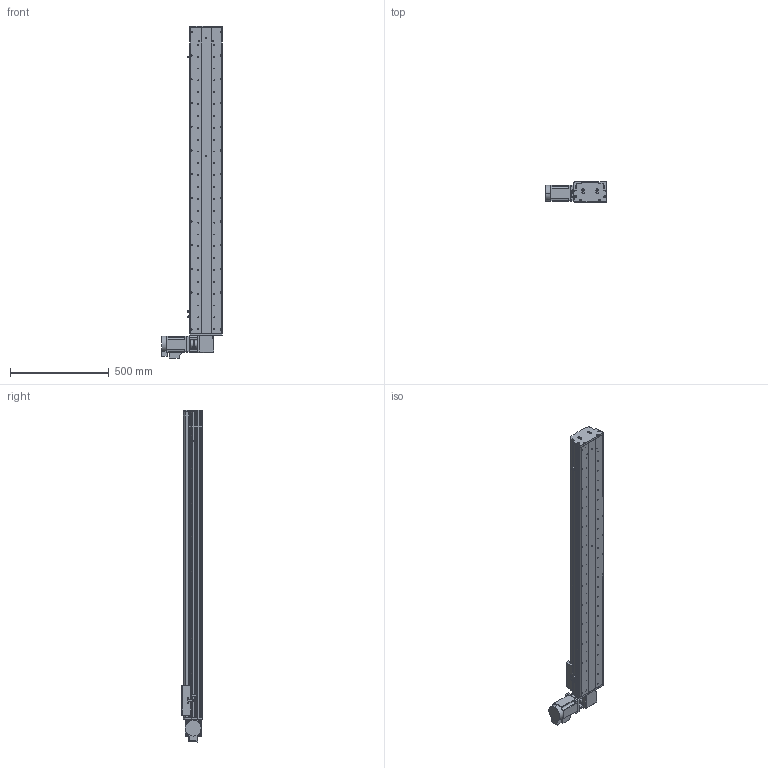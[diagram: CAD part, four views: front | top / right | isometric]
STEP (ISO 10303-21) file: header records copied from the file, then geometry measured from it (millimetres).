
FILE_DESCRIPTION (( 'STEP AP214' ), '1' );
FILE_NAME ('KSD165B-S1300-MRT-CM.STEP', '2017-10-17T01:41:00', ( '微软用户' ), ( '微软中国' ), 'SwSTEP 2.0', 'SolidWorks 2014', '' );
FILE_SCHEMA (( 'AUTOMOTIVE_DESIGN' ));
Length unit declared in the file: millimetre
Products named in the file (16): 165宽马达安装板同步带左-改; KSD165模组-同步带防尘盖1-1300行程; KSD165模组同步带底板-1300行程; 拸秶雄ん750W侜督萇儂; 165宽安装板同步带带电机座750W; C39ㄜ1419WP; U倰嫖萇假蚾璃; U倰嫖萇EEㄜSX672; 覜茼え68遵圉猾敕; KSD165模组-同步带-防撞垫2; KSD165模组同步带-防撞垫1; KSD165耀郪-ヶ傷啣1-肮祭湍; KSD165模组-后端板1-同步带; 130宽马达安装板1-带电机座750W（1）; KSD165模组-同步带滑动座-最新版; KSD165B-S1300-MRT-CM
Assembly tree (19 placements, depth 2):
  KSD165B-S1300-MRT-CM
    KSD165模组-同步带滑动座-最新版
    130宽马达安装板1-带电机座750W（1）
    KSD165模组-后端板1-同步带
    KSD165耀郪-ヶ傷啣1-肮祭湍
    KSD165模组同步带-防撞垫1
    KSD165模组-同步带-防撞垫2
    覜茼え68遵圉猾敕
    U倰嫖萇EEㄜSX672  x3
    U倰嫖萇假蚾璃  x3
    C39ㄜ1419WP
    165宽安装板同步带带电机座750W
    拸秶雄ん750W侜督萇儂
    KSD165模组同步带底板-1300行程
    KSD165模组-同步带防尘盖1-1300行程
    165宽马达安装板同步带左-改
Bounding box: 307.5 x 104 x 1681.06 mm (x, y, z)
Volume: 9241654.2 mm3; surface area: 2099780.4 mm2
Topology: 20 solids, 21 shells, 1558 faces, 4344 edges, 2817 vertices
Faces by surface type: cylinder 877, plane 587, cone 94
Entity records: 50227 total; most frequent: CARTESIAN_POINT 10495, DIRECTION 7782, ORIENTED_EDGE 7340, EDGE_CURVE 3670, AXIS2_PLACEMENT_3D 2976, VERTEX_POINT 2409, LINE 1830, VECTOR 1830
